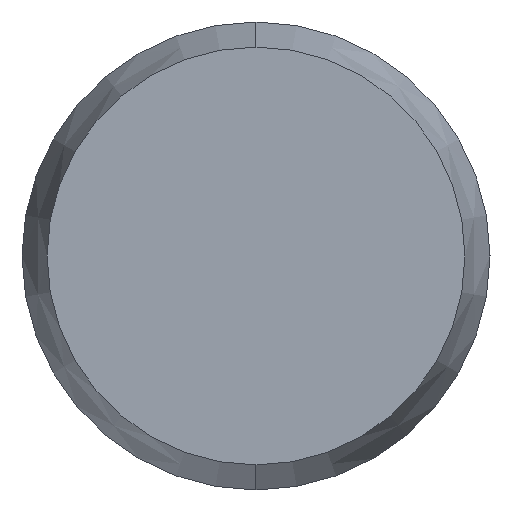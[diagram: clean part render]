
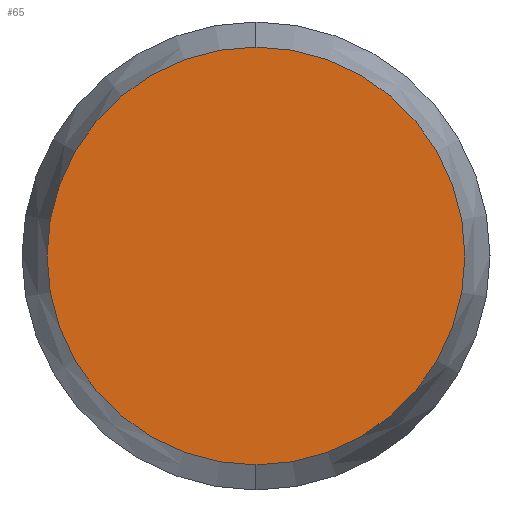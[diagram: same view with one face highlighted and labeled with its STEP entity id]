
A CAD part, left-side view. The second image highlights one B-rep face of the part: STEP entity #65.
In plain terms, the highlighted planar face has unit normal (-1, 0, 0).
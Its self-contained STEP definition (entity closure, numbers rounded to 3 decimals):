
#25 = VERTEX_POINT ( 'NONE', #225 ) ;
#26 = VERTEX_POINT ( 'NONE', #224 ) ;
#27 = EDGE_CURVE ( 'NONE', #26, #25, #219, .T. ) ;
#61 = EDGE_CURVE ( 'NONE', #25, #26, #266, .T. ) ;
#64 = EDGE_LOOP ( 'NONE', ( #66, #67 ) ) ;
#65 = ADVANCED_FACE ( 'NONE', ( #261 ), #260, .F. ) ;
#66 = ORIENTED_EDGE ( 'NONE', *, *, #27, .F. ) ;
#67 = ORIENTED_EDGE ( 'NONE', *, *, #61, .F. ) ;
#215 = DIRECTION ( 'NONE',  ( 0., 0., -1. ) ) ;
#216 = DIRECTION ( 'NONE',  ( 1., 0., 0. ) ) ;
#217 = CARTESIAN_POINT ( 'NONE',  ( -10., 0., 0. ) ) ;
#218 = AXIS2_PLACEMENT_3D ( 'NONE', #217, #216, #215 ) ;
#219 = CIRCLE ( 'NONE', #218, 0.67 ) ;
#224 = CARTESIAN_POINT ( 'NONE',  ( -10., 0., 0.67 ) ) ;
#225 = CARTESIAN_POINT ( 'NONE',  ( -10., 0., -0.67 ) ) ;
#256 = DIRECTION ( 'NONE',  ( 0., 0., -1. ) ) ;
#257 = DIRECTION ( 'NONE',  ( 1., 0., 0. ) ) ;
#258 = CARTESIAN_POINT ( 'NONE',  ( -10., 0., 0. ) ) ;
#259 = AXIS2_PLACEMENT_3D ( 'NONE', #258, #257, #256 ) ;
#260 = PLANE ( 'NONE',  #259 ) ;
#261 = FACE_OUTER_BOUND ( 'NONE', #64, .T. ) ;
#262 = DIRECTION ( 'NONE',  ( 0., 0., -1. ) ) ;
#263 = DIRECTION ( 'NONE',  ( 1., 0., 0. ) ) ;
#264 = CARTESIAN_POINT ( 'NONE',  ( -10., 0., 0. ) ) ;
#265 = AXIS2_PLACEMENT_3D ( 'NONE', #264, #263, #262 ) ;
#266 = CIRCLE ( 'NONE', #265, 0.67 ) ;
